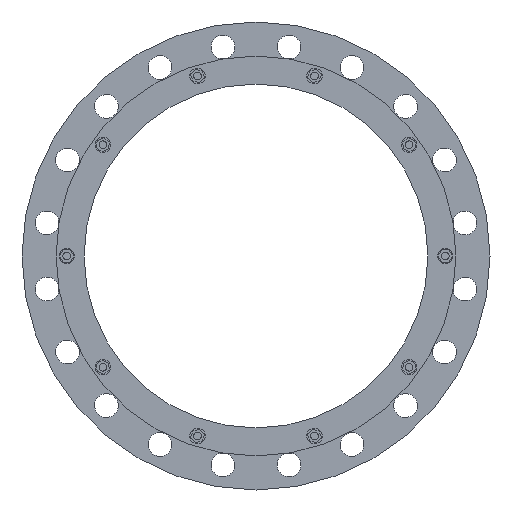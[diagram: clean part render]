
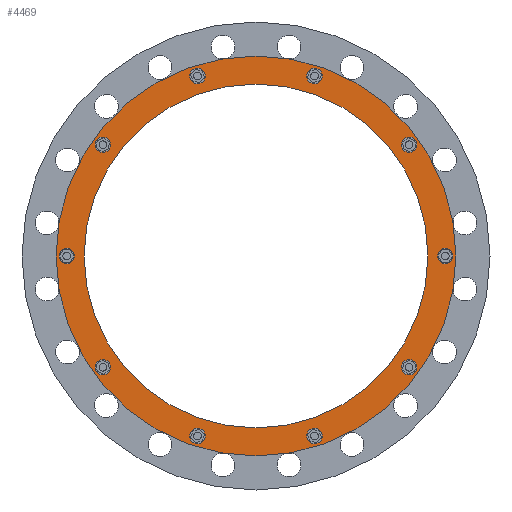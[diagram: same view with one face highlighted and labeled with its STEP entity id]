
A CAD part, front view. The second image highlights one B-rep face of the part: STEP entity #4469.
In plain terms, the highlighted planar face has unit normal (0, -1, 0).
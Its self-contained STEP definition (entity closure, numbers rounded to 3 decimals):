
#1100=CARTESIAN_POINT('',(0.,-92.452,0.));
#1101=DIRECTION('',(0.,-1.,0.));
#1102=DIRECTION('',(1.,0.,0.));
#1103=AXIS2_PLACEMENT_3D('',#1100,#1101,#1102);
#1105=CARTESIAN_POINT('',(0.,-92.452,0.));
#1106=DIRECTION('',(0.,1.,0.));
#1107=DIRECTION('',(1.,0.,0.));
#1108=AXIS2_PLACEMENT_3D('',#1105,#1106,#1107);
#1110=CARTESIAN_POINT('',(295.25,-92.452,0.));
#1111=DIRECTION('',(0.,-1.,0.));
#1112=DIRECTION('',(0.,0.,-1.));
#1113=AXIS2_PLACEMENT_3D('',#1110,#1111,#1112);
#1115=CARTESIAN_POINT('',(295.25,-92.452,0.));
#1116=DIRECTION('',(0.,-1.,0.));
#1117=DIRECTION('',(0.,0.,1.));
#1118=AXIS2_PLACEMENT_3D('',#1115,#1116,#1117);
#1120=CARTESIAN_POINT('',(238.862,-92.452,173.544));
#1121=DIRECTION('',(0.,-1.,0.));
#1122=DIRECTION('',(0.588,0.,-0.809));
#1123=AXIS2_PLACEMENT_3D('',#1120,#1121,#1122);
#1125=CARTESIAN_POINT('',(238.862,-92.452,173.544));
#1126=DIRECTION('',(0.,-1.,0.));
#1127=DIRECTION('',(-0.588,0.,0.809));
#1128=AXIS2_PLACEMENT_3D('',#1125,#1126,#1127);
#1130=CARTESIAN_POINT('',(91.237,-92.452,280.799));
#1131=DIRECTION('',(0.,-1.,0.));
#1132=DIRECTION('',(0.951,0.,-0.309));
#1133=AXIS2_PLACEMENT_3D('',#1130,#1131,#1132);
#1135=CARTESIAN_POINT('',(91.237,-92.452,280.799));
#1136=DIRECTION('',(0.,-1.,0.));
#1137=DIRECTION('',(-0.951,0.,0.309));
#1138=AXIS2_PLACEMENT_3D('',#1135,#1136,#1137);
#1140=CARTESIAN_POINT('',(-91.237,-92.452,280.799));
#1141=DIRECTION('',(0.,-1.,0.));
#1142=DIRECTION('',(0.951,0.,0.309));
#1143=AXIS2_PLACEMENT_3D('',#1140,#1141,#1142);
#1145=CARTESIAN_POINT('',(-91.237,-92.452,280.799));
#1146=DIRECTION('',(0.,-1.,0.));
#1147=DIRECTION('',(-0.951,0.,-0.309));
#1148=AXIS2_PLACEMENT_3D('',#1145,#1146,#1147);
#1150=CARTESIAN_POINT('',(-238.862,-92.452,173.544));
#1151=DIRECTION('',(0.,-1.,0.));
#1152=DIRECTION('',(0.588,0.,0.809));
#1153=AXIS2_PLACEMENT_3D('',#1150,#1151,#1152);
#1155=CARTESIAN_POINT('',(-238.862,-92.452,173.544));
#1156=DIRECTION('',(0.,-1.,0.));
#1157=DIRECTION('',(-0.588,0.,-0.809));
#1158=AXIS2_PLACEMENT_3D('',#1155,#1156,#1157);
#1160=CARTESIAN_POINT('',(-295.25,-92.452,0.));
#1161=DIRECTION('',(0.,-1.,0.));
#1162=DIRECTION('',(0.,0.,1.));
#1163=AXIS2_PLACEMENT_3D('',#1160,#1161,#1162);
#1165=CARTESIAN_POINT('',(-295.25,-92.452,0.));
#1166=DIRECTION('',(0.,-1.,0.));
#1167=DIRECTION('',(0.,0.,-1.));
#1168=AXIS2_PLACEMENT_3D('',#1165,#1166,#1167);
#1170=CARTESIAN_POINT('',(-238.862,-92.452,-173.544));
#1171=DIRECTION('',(0.,-1.,0.));
#1172=DIRECTION('',(-0.588,0.,0.809));
#1173=AXIS2_PLACEMENT_3D('',#1170,#1171,#1172);
#1175=CARTESIAN_POINT('',(-238.862,-92.452,-173.544));
#1176=DIRECTION('',(0.,-1.,0.));
#1177=DIRECTION('',(0.588,0.,-0.809));
#1178=AXIS2_PLACEMENT_3D('',#1175,#1176,#1177);
#1180=CARTESIAN_POINT('',(-91.237,-92.452,-280.799));
#1181=DIRECTION('',(0.,-1.,0.));
#1182=DIRECTION('',(-0.951,0.,0.309));
#1183=AXIS2_PLACEMENT_3D('',#1180,#1181,#1182);
#1185=CARTESIAN_POINT('',(-91.237,-92.452,-280.799));
#1186=DIRECTION('',(0.,-1.,0.));
#1187=DIRECTION('',(0.951,0.,-0.309));
#1188=AXIS2_PLACEMENT_3D('',#1185,#1186,#1187);
#1190=CARTESIAN_POINT('',(91.237,-92.452,-280.799));
#1191=DIRECTION('',(0.,-1.,0.));
#1192=DIRECTION('',(-0.951,0.,-0.309));
#1193=AXIS2_PLACEMENT_3D('',#1190,#1191,#1192);
#1195=CARTESIAN_POINT('',(91.237,-92.452,-280.799));
#1196=DIRECTION('',(0.,-1.,0.));
#1197=DIRECTION('',(0.951,0.,0.309));
#1198=AXIS2_PLACEMENT_3D('',#1195,#1196,#1197);
#1200=CARTESIAN_POINT('',(238.862,-92.452,-173.544));
#1201=DIRECTION('',(0.,-1.,0.));
#1202=DIRECTION('',(-0.588,0.,-0.809));
#1203=AXIS2_PLACEMENT_3D('',#1200,#1201,#1202);
#1205=CARTESIAN_POINT('',(238.862,-92.452,-173.544));
#1206=DIRECTION('',(0.,-1.,0.));
#1207=DIRECTION('',(0.588,0.,0.809));
#1208=AXIS2_PLACEMENT_3D('',#1205,#1206,#1207);
#1210=CARTESIAN_POINT('',(0.,-92.452,0.));
#1211=DIRECTION('',(0.,1.,0.));
#1212=DIRECTION('',(1.,0.,0.));
#1213=AXIS2_PLACEMENT_3D('',#1210,#1211,#1212);
#1223=CARTESIAN_POINT('',(0.,-92.452,0.));
#1224=DIRECTION('',(0.,-1.,0.));
#1225=DIRECTION('',(1.,0.,0.));
#1226=AXIS2_PLACEMENT_3D('',#1223,#1224,#1225);
#2967=CARTESIAN_POINT('',(311.85,-92.452,0.));
#2969=VERTEX_POINT('',#2967);
#2970=CARTESIAN_POINT('',(268.25,-92.452,0.));
#2972=VERTEX_POINT('',#2970);
#2979=CARTESIAN_POINT('',(-311.85,-92.452,0.));
#2981=VERTEX_POINT('',#2979);
#2982=CARTESIAN_POINT('',(-268.25,-92.452,0.));
#2984=VERTEX_POINT('',#2982);
#3021=CARTESIAN_POINT('',(295.25,-92.452,-12.));
#3022=CARTESIAN_POINT('',(295.25,-92.452,12.));
#3023=VERTEX_POINT('',#3021);
#3024=VERTEX_POINT('',#3022);
#3070=CARTESIAN_POINT('',(245.916,-92.452,163.835));
#3071=VERTEX_POINT('',#3070);
#3072=CARTESIAN_POINT('',(231.809,-92.452,183.252));
#3073=VERTEX_POINT('',#3072);
#3114=CARTESIAN_POINT('',(102.65,-92.452,277.091));
#3115=VERTEX_POINT('',#3114);
#3116=CARTESIAN_POINT('',(79.825,-92.452,284.508));
#3117=VERTEX_POINT('',#3116);
#3158=CARTESIAN_POINT('',(-79.825,-92.452,284.508));
#3159=VERTEX_POINT('',#3158);
#3160=CARTESIAN_POINT('',(-102.65,-92.452,277.091));
#3161=VERTEX_POINT('',#3160);
#3202=CARTESIAN_POINT('',(-231.809,-92.452,183.252));
#3203=VERTEX_POINT('',#3202);
#3204=CARTESIAN_POINT('',(-245.916,-92.452,163.835));
#3205=VERTEX_POINT('',#3204);
#3246=CARTESIAN_POINT('',(-295.25,-92.452,12.));
#3247=VERTEX_POINT('',#3246);
#3248=CARTESIAN_POINT('',(-295.25,-92.452,-12.));
#3249=VERTEX_POINT('',#3248);
#3290=CARTESIAN_POINT('',(-245.916,-92.452,-163.835));
#3291=VERTEX_POINT('',#3290);
#3292=CARTESIAN_POINT('',(-231.809,-92.452,-183.252));
#3293=VERTEX_POINT('',#3292);
#3334=CARTESIAN_POINT('',(-102.65,-92.452,-277.091));
#3335=VERTEX_POINT('',#3334);
#3336=CARTESIAN_POINT('',(-79.825,-92.452,-284.508));
#3337=VERTEX_POINT('',#3336);
#3549=CARTESIAN_POINT('',(79.825,-92.452,-284.508));
#3550=VERTEX_POINT('',#3549);
#3551=CARTESIAN_POINT('',(102.65,-92.452,-277.091));
#3552=VERTEX_POINT('',#3551);
#3593=CARTESIAN_POINT('',(231.809,-92.452,-183.252));
#3594=VERTEX_POINT('',#3593);
#3595=CARTESIAN_POINT('',(245.916,-92.452,-163.835));
#3596=VERTEX_POINT('',#3595);
#4394=CARTESIAN_POINT('',(0.,-92.452,0.));
#4395=DIRECTION('',(0.,1.,0.));
#4396=DIRECTION('',(-1.,0.,0.));
#4397=AXIS2_PLACEMENT_3D('',#4394,#4395,#4396);
#4398=PLANE('',#4397);
#4400=ORIENTED_EDGE('',*,*,#4399,.F.);
#4402=ORIENTED_EDGE('',*,*,#4401,.T.);
#4403=EDGE_LOOP('',(#4400,#4402));
#4404=FACE_OUTER_BOUND('',#4403,.F.);
#4406=ORIENTED_EDGE('',*,*,#4405,.F.);
#4408=ORIENTED_EDGE('',*,*,#4407,.T.);
#4409=EDGE_LOOP('',(#4406,#4408));
#4410=FACE_BOUND('',#4409,.F.);
#4412=ORIENTED_EDGE('',*,*,#4411,.T.);
#4414=ORIENTED_EDGE('',*,*,#4413,.T.);
#4415=EDGE_LOOP('',(#4412,#4414));
#4416=FACE_BOUND('',#4415,.F.);
#4418=ORIENTED_EDGE('',*,*,#4417,.T.);
#4420=ORIENTED_EDGE('',*,*,#4419,.T.);
#4421=EDGE_LOOP('',(#4418,#4420));
#4422=FACE_BOUND('',#4421,.F.);
#4424=ORIENTED_EDGE('',*,*,#4423,.T.);
#4426=ORIENTED_EDGE('',*,*,#4425,.T.);
#4427=EDGE_LOOP('',(#4424,#4426));
#4428=FACE_BOUND('',#4427,.F.);
#4430=ORIENTED_EDGE('',*,*,#4429,.T.);
#4432=ORIENTED_EDGE('',*,*,#4431,.T.);
#4433=EDGE_LOOP('',(#4430,#4432));
#4434=FACE_BOUND('',#4433,.F.);
#4436=ORIENTED_EDGE('',*,*,#4435,.T.);
#4438=ORIENTED_EDGE('',*,*,#4437,.T.);
#4439=EDGE_LOOP('',(#4436,#4438));
#4440=FACE_BOUND('',#4439,.F.);
#4442=ORIENTED_EDGE('',*,*,#4441,.T.);
#4444=ORIENTED_EDGE('',*,*,#4443,.T.);
#4445=EDGE_LOOP('',(#4442,#4444));
#4446=FACE_BOUND('',#4445,.F.);
#4448=ORIENTED_EDGE('',*,*,#4447,.T.);
#4450=ORIENTED_EDGE('',*,*,#4449,.T.);
#4451=EDGE_LOOP('',(#4448,#4450));
#4452=FACE_BOUND('',#4451,.F.);
#4454=ORIENTED_EDGE('',*,*,#4453,.T.);
#4456=ORIENTED_EDGE('',*,*,#4455,.T.);
#4457=EDGE_LOOP('',(#4454,#4456));
#4458=FACE_BOUND('',#4457,.F.);
#4459=ORIENTED_EDGE('',*,*,#4376,.T.);
#4460=ORIENTED_EDGE('',*,*,#4387,.T.);
#4461=EDGE_LOOP('',(#4459,#4460));
#4462=FACE_BOUND('',#4461,.F.);
#4464=ORIENTED_EDGE('',*,*,#4463,.T.);
#4466=ORIENTED_EDGE('',*,*,#4465,.T.);
#4467=EDGE_LOOP('',(#4464,#4466));
#4468=FACE_BOUND('',#4467,.F.);
#4469=ADVANCED_FACE('',(#4404,#4410,#4416,#4422,#4428,#4434,#4440,#4446,#4452,
#4458,#4462,#4468),#4398,.F.);
#1104=CIRCLE('',#1103,311.85);
#1109=CIRCLE('',#1108,311.85);
#1114=CIRCLE('',#1113,12.);
#1119=CIRCLE('',#1118,12.);
#1124=CIRCLE('',#1123,12.);
#1129=CIRCLE('',#1128,12.);
#1134=CIRCLE('',#1133,12.);
#1139=CIRCLE('',#1138,12.);
#1144=CIRCLE('',#1143,12.);
#1149=CIRCLE('',#1148,12.);
#1154=CIRCLE('',#1153,12.);
#1159=CIRCLE('',#1158,12.);
#1164=CIRCLE('',#1163,12.);
#1169=CIRCLE('',#1168,12.);
#1174=CIRCLE('',#1173,12.);
#1179=CIRCLE('',#1178,12.);
#1184=CIRCLE('',#1183,12.);
#1189=CIRCLE('',#1188,12.);
#1194=CIRCLE('',#1193,12.);
#1199=CIRCLE('',#1198,12.);
#1204=CIRCLE('',#1203,12.);
#1209=CIRCLE('',#1208,12.);
#1214=CIRCLE('',#1213,268.25);
#1227=CIRCLE('',#1226,268.25);
#4376=EDGE_CURVE('',#3550,#3552,#1194,.T.);
#4387=EDGE_CURVE('',#3552,#3550,#1199,.T.);
#4399=EDGE_CURVE('',#2969,#2981,#1104,.T.);
#4401=EDGE_CURVE('',#2969,#2981,#1109,.T.);
#4405=EDGE_CURVE('',#2972,#2984,#1214,.T.);
#4407=EDGE_CURVE('',#2972,#2984,#1227,.T.);
#4411=EDGE_CURVE('',#3023,#3024,#1114,.T.);
#4413=EDGE_CURVE('',#3024,#3023,#1119,.T.);
#4417=EDGE_CURVE('',#3071,#3073,#1124,.T.);
#4419=EDGE_CURVE('',#3073,#3071,#1129,.T.);
#4423=EDGE_CURVE('',#3115,#3117,#1134,.T.);
#4425=EDGE_CURVE('',#3117,#3115,#1139,.T.);
#4429=EDGE_CURVE('',#3159,#3161,#1144,.T.);
#4431=EDGE_CURVE('',#3161,#3159,#1149,.T.);
#4435=EDGE_CURVE('',#3203,#3205,#1154,.T.);
#4437=EDGE_CURVE('',#3205,#3203,#1159,.T.);
#4441=EDGE_CURVE('',#3247,#3249,#1164,.T.);
#4443=EDGE_CURVE('',#3249,#3247,#1169,.T.);
#4447=EDGE_CURVE('',#3291,#3293,#1174,.T.);
#4449=EDGE_CURVE('',#3293,#3291,#1179,.T.);
#4453=EDGE_CURVE('',#3335,#3337,#1184,.T.);
#4455=EDGE_CURVE('',#3337,#3335,#1189,.T.);
#4463=EDGE_CURVE('',#3594,#3596,#1204,.T.);
#4465=EDGE_CURVE('',#3596,#3594,#1209,.T.);
